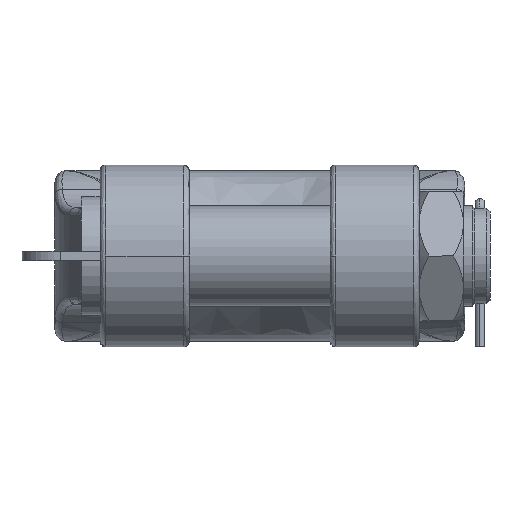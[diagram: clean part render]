
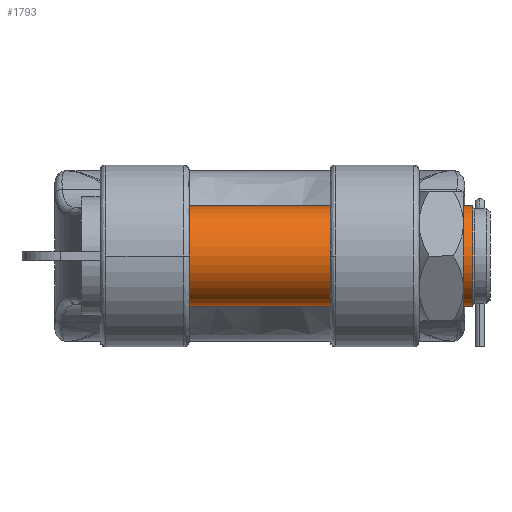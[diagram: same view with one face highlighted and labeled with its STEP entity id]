
A CAD part, front view. The second image highlights one B-rep face of the part: STEP entity #1793.
In plain terms, the highlighted cylindrical face has radius 135 mm (diameter 270 mm), a partial arc.
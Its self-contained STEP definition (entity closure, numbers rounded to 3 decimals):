
#1793=ADVANCED_FACE('NONE',(#3593),#3594,.T.);
#3593=FACE_OUTER_BOUND('',#37019,.T.);
#3594=CYLINDRICAL_SURFACE('',#37020,135.0);
#37019=EDGE_LOOP('',(#41374,#41375,#41376,#41377));
#37020=AXIS2_PLACEMENT_3D('',#41378,#41379,#41380);
#41374=ORIENTED_EDGE('',*,*,#43331,.F.);
#41375=ORIENTED_EDGE('',*,*,#43372,.T.);
#41376=ORIENTED_EDGE('',*,*,#43333,.T.);
#41377=ORIENTED_EDGE('',*,*,#43374,.T.);
#41378=CARTESIAN_POINT('',(-430.0,0.,0.));
#41379=DIRECTION('',(-1.0,0.,0.));
#41380=DIRECTION('',(0.,0.,-1.0));
#43331=EDGE_CURVE('NONE',#46191,#46197,#46198,.T.);
#43333=EDGE_CURVE('NONE',#46193,#46199,#46201,.T.);
#43372=EDGE_CURVE('NONE',#46191,#46193,#46252,.T.);
#43374=EDGE_CURVE('NONE',#46199,#46197,#46254,.T.);
#46191=VERTEX_POINT('NONE',#74305);
#46193=VERTEX_POINT('NONE',#74307);
#46197=VERTEX_POINT('NONE',#74311);
#46198=LINE('',#74312,#74313);
#46199=VERTEX_POINT('NONE',#74314);
#46201=LINE('',#74316,#74317);
#46252=CIRCLE('',#74811,135.0);
#46254=CIRCLE('',#74813,135.0);
#74305=CARTESIAN_POINT('',(-426.0,0.,135.0));
#74307=CARTESIAN_POINT('',(-426.0,0.,-135.0));
#74311=CARTESIAN_POINT('',(575.0,0.,135.0));
#74312=CARTESIAN_POINT('',(-430.0,0.,135.0));
#74313=VECTOR('',#76140,1000.0);
#74314=CARTESIAN_POINT('',(575.0,0.,-135.0));
#74316=CARTESIAN_POINT('',(-430.0,0.,-135.0));
#74317=VECTOR('',#76144,1000.0);
#74811=AXIS2_PLACEMENT_3D('',#76185,#76186,#76187);
#74813=AXIS2_PLACEMENT_3D('',#76188,#76189,#76190);
#76140=DIRECTION('',(1.0,0.,0.));
#76144=DIRECTION('',(1.0,0.,0.));
#76185=CARTESIAN_POINT('',(-426.0,0.,0.));
#76186=DIRECTION('',(1.0,0.,0.));
#76187=DIRECTION('',(0.,0.,-1.0));
#76188=CARTESIAN_POINT('',(575.0,0.,0.));
#76189=DIRECTION('',(-1.0,0.,0.));
#76190=DIRECTION('',(0.,0.,-1.0));
